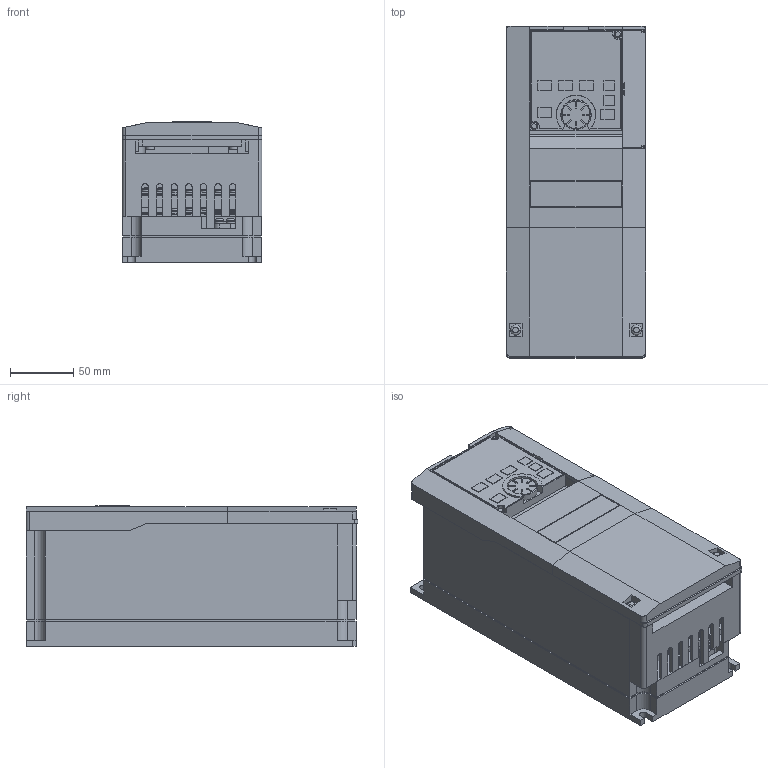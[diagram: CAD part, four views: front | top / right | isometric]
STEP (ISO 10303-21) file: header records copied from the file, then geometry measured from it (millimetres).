
FILE_DESCRIPTION((''),'2;1');
FILE_NAME('3D-INV-A8-01_02_ASM','2014-01-17T',('PZ79677'),(''),'PRO/ENGINEER BY PARAMETRIC TECHNOLOGY CORPORATION, 2011490','PRO/ENGINEER BY PARAMETRIC TECHNOLOGY CORPORATION, 2011490','');
FILE_SCHEMA(('CONFIG_CONTROL_DESIGN'));
Length unit declared in the file: millimetre
Products named in the file (19): 3D-BASE-A8-01_01; 3D-POWER-A8-01_02_ASM; 3D-SW-PW-P-NA-M4X8_; 3D-SHORT-R1S1-01_02_; 3D-SHORT-P1P-01_02_; 3D-SHORT-PRPX-01_02_; 3D-TE_NEJI-M4X8_; 3D-SW-PW-P-M3_5X6_; 3D-TE_COV-A8-01_02; 3D-TE-A8-01_02_ASM; 3D-TA-A8; 3D-A8-TA_ASM; 3D-SEN_COV-A8-01_02; 3D-COV_UPR-A8-01_02; 3D-DU_ASSY-A8; 3D-IF_COV-A80; 3D-COV_UPR-A8-01_02_ASM; 3D-COV_LWR-A8-01_02; 3D-INV-A8-01_02_ASM
Assembly tree (34 placements, depth 3):
  3D-INV-A8-01_02_ASM
    3D-POWER-A8-01_02_ASM
      3D-BASE-A8-01_01
    3D-SW-PW-P-NA-M4X8_  x2
    3D-TE-A8-01_02_ASM
      3D-SHORT-R1S1-01_02_  x2
      3D-SHORT-P1P-01_02_
      3D-SHORT-PRPX-01_02_
      3D-TE_NEJI-M4X8_  x12
      3D-SW-PW-P-M3_5X6_  x4
      3D-TE_COV-A8-01_02
    3D-A8-TA_ASM
      3D-TA-A8
    3D-SEN_COV-A8-01_02
    3D-COV_UPR-A8-01_02_ASM
      3D-COV_UPR-A8-01_02
      3D-DU_ASSY-A8
      3D-IF_COV-A80
    3D-COV_LWR-A8-01_02
Bounding box: 110 x 261.5 x 111 mm (x, y, z)
Volume: 2014381.1 mm3; surface area: 356106.2 mm2
Topology: 31 solids, 34 shells, 1780 faces, 4450 edges, 2899 vertices
Faces by surface type: plane 1354, cylinder 276, torus 56, cone 48, sphere 46
Entity records: 46522 total; most frequent: CARTESIAN_POINT 8142, ORIENTED_EDGE 7812, DIRECTION 7679, EDGE_CURVE 3906, VECTOR 3347, LINE 3347, VERTEX_POINT 2582, AXIS2_PLACEMENT_3D 2166
